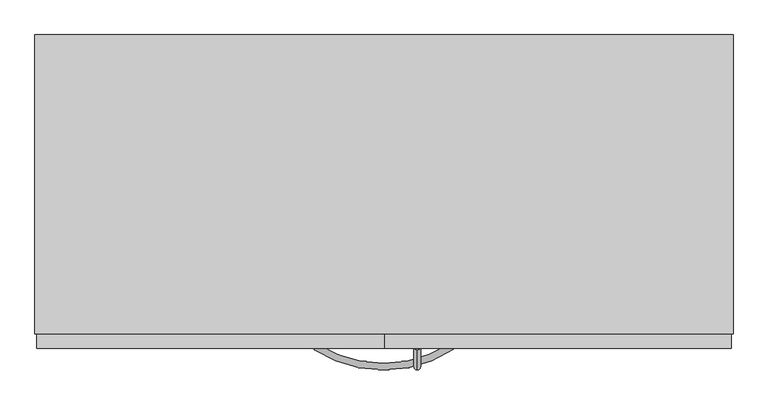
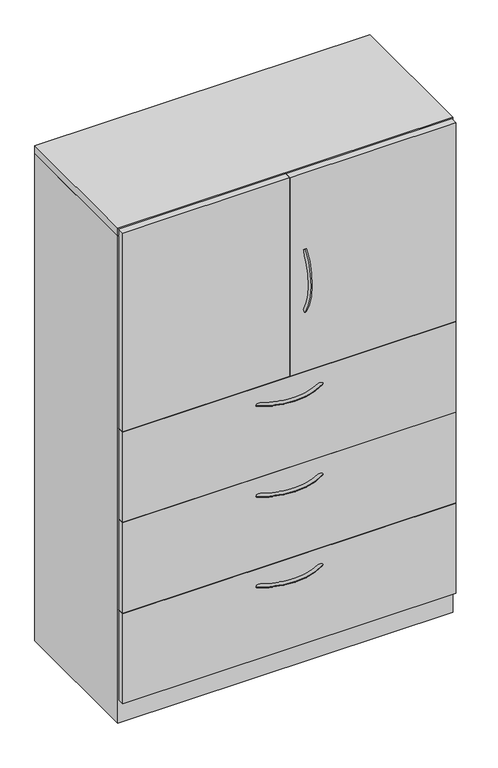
"""IFC4 building model written with IfcOpenShell, lengths in millimetres: furniture geometry, Steelcase - Universal Storage - Cabinet - Combination - Proud Steel : 65 1/2H - Hinged Doors/3 Drawers - 18 7/8D x 42W."""

from ifc_helpers import new_model, si_unit, point, frame, origin, place, context, project, spatial, polyline, circle_curve, ellipse_curve, trimmed, outline, extrude, faceted_brep, source, transform, mapped, element, save
from ifc_brep_helpers import plane_surface, revolved_surface, advanced_brep


def furniture_32368ffa(model_context):
    return source(origin(), model_context, "Body", "SolidModel", [
        extrude(outline(polyline([(1063.6225413, -479.552), (3.1725353, -479.552), (3.1725353, -457.3261219), (1063.6225413, -457.3261219), (1063.6225413, -479.552)])), frame((0.0, 0.0, 77.724), z_axis=(0.0, 0.0, 1.0), x_axis=(1.0, 0.0, 0.0)), (0.0, 0.0, 1.0), 303.276),
        extrude(outline(polyline([(1063.6225413, -479.552), (3.1725353, -479.552), (3.1725353, -457.3261219), (1063.6225413, -457.3261219), (1063.6225413, -479.552)])), frame((0.0, 0.0, 382.524), z_axis=(0.0, 0.0, 1.0), x_axis=(1.0, 0.0, 0.0)), (0.0, 0.0, 1.0), 303.276),
        extrude(outline(polyline([(1063.6225413, -479.552), (3.1725353, -479.552), (3.1725353, -457.3261219), (1063.6225413, -457.3261219), (1063.6225413, -479.552)])), frame((0.0, 0.0, 687.3240349), z_axis=(0.0, 0.0, 1.0), x_axis=(1.0, 0.0, 0.0)), (0.0, 0.0, 1.0), 303.2759651),
        extrude(outline(polyline([(533.4, -479.552), (3.1725353, -479.552), (3.1725353, -457.3261219), (533.4, -457.3261219), (533.4, -479.552)])), frame((0.0, 0.0, 992.5062596), z_axis=(0.0, 0.0, 1.0), x_axis=(1.0, 0.0, 0.0)), (0.0, 0.0, 1.0), 668.02),
        extrude(outline(polyline([(1063.6225413, -479.552), (534.9239992, -479.552), (534.9239992, -457.3261219), (1063.6225413, -457.3261219), (1063.6225413, -479.552)])), frame((0.0, 0.0, 992.5062596), z_axis=(0.0, 0.0, 1.0), x_axis=(1.0, 0.0, 0.0)), (0.0, 0.0, 1.0), 668.02),
        advanced_brep(
        [(584.1682496, -481.5705994, 1404.643666), (584.1682496, -473.0108019, 1399.1705073), (584.1682496, -481.1337636, 1192.3367456), (584.1682496, -472.5965612, 1197.8450825)],
        [
            (0, 1, circle_curve(frame((584.1682496, -477.2907007, 1401.9070866), z_axis=(0.0, 0.5386967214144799, 0.842499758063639), x_axis=(0.0, 0.842499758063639, -0.5386967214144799)), 5.08)),
            (1, 0, circle_curve(frame((584.1682496, -477.2907007, 1401.9070866), z_axis=(0.0, 0.5386967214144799, 0.842499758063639), x_axis=(0.0, 0.842499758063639, -0.5386967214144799)), 5.08)),
            (2, 3, circle_curve(frame((584.1682496, -476.8651624, 1195.0909141), z_axis=(0.0, 0.5421591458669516, -0.8402758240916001), x_axis=(0.0, 0.8402758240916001, 0.5421591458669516)), 5.08)),
            (3, 2, circle_curve(frame((584.1682496, -476.8651624, 1195.0909141), z_axis=(0.0, 0.5421591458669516, -0.8402758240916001), x_axis=(0.0, 0.8402758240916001, 0.5421591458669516)), 5.08)),
            (3, 1, circle_curve(frame((584.1682496, -316.0827352, 1298.8302589), z_axis=(-1.0, 0.0, 0.0), x_axis=(0.0, -0.8424997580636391, 0.5386967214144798)), 186.2648211)),
            (0, 2, circle_curve(frame((584.1682496, -316.0827352, 1298.8302589), z_axis=(1.0, 0.0, 0.0), x_axis=(0.0, -0.8424997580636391, 0.5386967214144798)), 196.4248211)),
        ],
        [
            plane_surface(frame((584.9619996, -476.6365286, 1401.4888072), z_axis=(0.0, 0.5386967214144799, 0.8424997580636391), x_axis=(1.0, 0.0, 0.0))),
            plane_surface(frame((584.9619996, -476.2127171, 1195.511882), z_axis=(0.0, 0.5421591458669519, -0.8402758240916), x_axis=(1.0, 0.0, 0.0))),
            revolved_surface(trimmed(ellipse_curve(frame((584.1682496, -477.2907007, 1401.9070866), z_axis=(0.0, 0.5386967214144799, 0.842499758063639), x_axis=(0.0, 0.842499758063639, -0.5386967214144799)), 5.08, 5.08), [point((584.1682496, -481.5705994, 1404.643666))], [point((584.1682496, -473.0108019, 1399.1705073))], True, "CARTESIAN"), (584.9619996, -316.0827352, 1298.8302589), (1.0, 0.0, 0.0)),
            revolved_surface(trimmed(ellipse_curve(frame((584.1682496, -477.2907007, 1401.9070866), z_axis=(0.0, 0.5386967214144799, 0.842499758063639), x_axis=(0.0, 0.842499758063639, -0.5386967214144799)), 5.08, 5.08), [point((584.1682496, -473.0108019, 1399.1705073))], [point((584.1682496, -481.5705994, 1404.643666))], True, "CARTESIAN"), (584.9619996, -316.0827352, 1298.8302589), (1.0, 0.0, 0.0)),
        ],
        [
            (0, [[1, 2]]),
            (1, [[3, 4]]),
            (2, [[5, -1, 6, -4]]),
            (3, [[-6, -2, -5, -3]]),
        ],
    ),
        advanced_brep(
        [(426.8245932, -481.5705994, 323.56425), (432.2977519, -473.0108019, 323.56425), (639.1315136, -481.1337636, 323.56425), (633.6231767, -472.5965612, 323.56425)],
        [
            (0, 1, circle_curve(frame((429.5611726, -477.2907007, 323.56425), z_axis=(-0.8424997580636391, 0.5386967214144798, 0.0), x_axis=(0.5386967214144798, 0.8424997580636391, 0.0)), 5.08)),
            (1, 0, circle_curve(frame((429.5611726, -477.2907007, 323.56425), z_axis=(-0.8424997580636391, 0.5386967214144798, 0.0), x_axis=(0.5386967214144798, 0.8424997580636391, 0.0)), 5.08)),
            (2, 3, circle_curve(frame((636.3773452, -476.8651624, 323.56425), z_axis=(0.8402758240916, 0.5421591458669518, 0.0), x_axis=(-0.5421591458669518, 0.8402758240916, 0.0)), 5.08)),
            (3, 2, circle_curve(frame((636.3773452, -476.8651624, 323.56425), z_axis=(0.8402758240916, 0.5421591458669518, 0.0), x_axis=(-0.5421591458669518, 0.8402758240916, 0.0)), 5.08)),
            (3, 1, circle_curve(frame((532.6380004, -316.0827352, 323.56425), z_axis=(0.0, 0.0, -1.0), x_axis=(-0.5386967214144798, -0.8424997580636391, 0.0)), 186.2648211)),
            (0, 2, circle_curve(frame((532.6380004, -316.0827352, 323.56425), z_axis=(0.0, 0.0, 1.0), x_axis=(-0.5386967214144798, -0.8424997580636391, 0.0)), 196.4248211)),
        ],
        [
            plane_surface(frame((429.9794521, -476.6365286, 324.358), z_axis=(-0.8424997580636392, 0.5386967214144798, 0.0), x_axis=(0.0, 0.0, 1.0))),
            plane_surface(frame((635.9563772, -476.2127171, 324.358), z_axis=(0.8402758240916, 0.5421591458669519, 0.0), x_axis=(0.0, 0.0, 1.0))),
            revolved_surface(trimmed(ellipse_curve(frame((429.5611726, -477.2907007, 323.56425), z_axis=(-0.8424997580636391, 0.5386967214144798, 0.0), x_axis=(0.5386967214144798, 0.8424997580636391, 0.0)), 5.08, 5.08), [point((426.8245932, -481.5705994, 323.56425))], [point((432.2977519, -473.0108019, 323.56425))], True, "CARTESIAN"), (532.6380004, -316.0827352, 324.358), (0.0, 0.0, 1.0)),
            revolved_surface(trimmed(ellipse_curve(frame((429.5611726, -477.2907007, 323.56425), z_axis=(-0.8424997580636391, 0.5386967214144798, 0.0), x_axis=(0.5386967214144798, 0.8424997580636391, 0.0)), 5.08, 5.08), [point((432.2977519, -473.0108019, 323.56425))], [point((426.8245932, -481.5705994, 323.56425))], True, "CARTESIAN"), (532.6380004, -316.0827352, 324.358), (0.0, 0.0, 1.0)),
        ],
        [
            (0, [[1, 2]]),
            (1, [[3, 4]]),
            (2, [[5, -1, 6, -4]]),
            (3, [[-6, -2, -5, -3]]),
        ],
    ),
        advanced_brep(
        [(426.8245932, -481.5705994, 627.85625), (432.2977519, -473.0108019, 627.85625), (639.1315136, -481.1337636, 627.85625), (633.6231767, -472.5965612, 627.85625)],
        [
            (0, 1, circle_curve(frame((429.5611726, -477.2907007, 627.85625), z_axis=(-0.8424997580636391, 0.5386967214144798, 0.0), x_axis=(0.5386967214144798, 0.8424997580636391, 0.0)), 5.08)),
            (1, 0, circle_curve(frame((429.5611726, -477.2907007, 627.85625), z_axis=(-0.8424997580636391, 0.5386967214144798, 0.0), x_axis=(0.5386967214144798, 0.8424997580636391, 0.0)), 5.08)),
            (2, 3, circle_curve(frame((636.3773452, -476.8651624, 627.85625), z_axis=(0.8402758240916, 0.5421591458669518, 0.0), x_axis=(-0.5421591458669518, 0.8402758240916, 0.0)), 5.08)),
            (3, 2, circle_curve(frame((636.3773452, -476.8651624, 627.85625), z_axis=(0.8402758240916, 0.5421591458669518, 0.0), x_axis=(-0.5421591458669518, 0.8402758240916, 0.0)), 5.08)),
            (3, 1, circle_curve(frame((532.6380004, -316.0827352, 627.85625), z_axis=(0.0, 0.0, -1.0), x_axis=(-0.5386967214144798, -0.8424997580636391, 0.0)), 186.2648211)),
            (0, 2, circle_curve(frame((532.6380004, -316.0827352, 627.85625), z_axis=(0.0, 0.0, 1.0), x_axis=(-0.5386967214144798, -0.8424997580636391, 0.0)), 196.4248211)),
        ],
        [
            plane_surface(frame((429.9794521, -476.6365286, 628.65), z_axis=(-0.8424997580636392, 0.5386967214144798, 0.0), x_axis=(0.0, 0.0, 1.0))),
            plane_surface(frame((635.9563772, -476.2127171, 628.65), z_axis=(0.8402758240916, 0.5421591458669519, 0.0), x_axis=(0.0, 0.0, 1.0))),
            revolved_surface(trimmed(ellipse_curve(frame((429.5611726, -477.2907007, 627.85625), z_axis=(-0.8424997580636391, 0.5386967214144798, 0.0), x_axis=(0.5386967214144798, 0.8424997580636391, 0.0)), 5.08, 5.08), [point((426.8245932, -481.5705994, 627.85625))], [point((432.2977519, -473.0108019, 627.85625))], True, "CARTESIAN"), (532.6380004, -316.0827352, 628.65), (0.0, 0.0, 1.0)),
            revolved_surface(trimmed(ellipse_curve(frame((429.5611726, -477.2907007, 627.85625), z_axis=(-0.8424997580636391, 0.5386967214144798, 0.0), x_axis=(0.5386967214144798, 0.8424997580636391, 0.0)), 5.08, 5.08), [point((432.2977519, -473.0108019, 627.85625))], [point((426.8245932, -481.5705994, 627.85625))], True, "CARTESIAN"), (532.6380004, -316.0827352, 628.65), (0.0, 0.0, 1.0)),
        ],
        [
            (0, [[1, 2]]),
            (1, [[3, 4]]),
            (2, [[5, -1, 6, -4]]),
            (3, [[-6, -2, -5, -3]]),
        ],
    ),
        advanced_brep(
        [(426.8245932, -481.5705994, 932.65625), (432.2977519, -473.0108019, 932.65625), (639.1315136, -481.1337636, 932.65625), (633.6231767, -472.5965612, 932.65625)],
        [
            (0, 1, circle_curve(frame((429.5611726, -477.2907007, 932.65625), z_axis=(-0.8424997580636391, 0.5386967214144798, 0.0), x_axis=(0.5386967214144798, 0.8424997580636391, 0.0)), 5.08)),
            (1, 0, circle_curve(frame((429.5611726, -477.2907007, 932.65625), z_axis=(-0.8424997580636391, 0.5386967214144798, 0.0), x_axis=(0.5386967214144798, 0.8424997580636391, 0.0)), 5.08)),
            (2, 3, circle_curve(frame((636.3773452, -476.8651624, 932.65625), z_axis=(0.8402758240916, 0.5421591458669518, 0.0), x_axis=(-0.5421591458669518, 0.8402758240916, 0.0)), 5.08)),
            (3, 2, circle_curve(frame((636.3773452, -476.8651624, 932.65625), z_axis=(0.8402758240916, 0.5421591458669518, 0.0), x_axis=(-0.5421591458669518, 0.8402758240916, 0.0)), 5.08)),
            (3, 1, circle_curve(frame((532.6380004, -316.0827352, 932.65625), z_axis=(0.0, 0.0, -1.0), x_axis=(-0.5386967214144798, -0.8424997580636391, 0.0)), 186.2648211)),
            (0, 2, circle_curve(frame((532.6380004, -316.0827352, 932.65625), z_axis=(0.0, 0.0, 1.0), x_axis=(-0.5386967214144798, -0.8424997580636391, 0.0)), 196.4248211)),
        ],
        [
            plane_surface(frame((429.9794521, -476.6365286, 933.45), z_axis=(-0.8424997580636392, 0.5386967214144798, 0.0), x_axis=(0.0, 0.0, 1.0))),
            plane_surface(frame((635.9563772, -476.2127171, 933.45), z_axis=(0.8402758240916, 0.5421591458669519, 0.0), x_axis=(0.0, 0.0, 1.0))),
            revolved_surface(trimmed(ellipse_curve(frame((429.5611726, -477.2907007, 932.65625), z_axis=(-0.8424997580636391, 0.5386967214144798, 0.0), x_axis=(0.5386967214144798, 0.8424997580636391, 0.0)), 5.08, 5.08), [point((426.8245932, -481.5705994, 932.65625))], [point((432.2977519, -473.0108019, 932.65625))], True, "CARTESIAN"), (532.6380004, -316.0827352, 933.45), (0.0, 0.0, 1.0)),
            revolved_surface(trimmed(ellipse_curve(frame((429.5611726, -477.2907007, 932.65625), z_axis=(-0.8424997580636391, 0.5386967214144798, 0.0), x_axis=(0.5386967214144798, 0.8424997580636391, 0.0)), 5.08, 5.08), [point((432.2977519, -473.0108019, 932.65625))], [point((426.8245932, -481.5705994, 932.65625))], True, "CARTESIAN"), (532.6380004, -316.0827352, 933.45), (0.0, 0.0, 1.0)),
        ],
        [
            (0, [[1, 2]]),
            (1, [[3, 4]]),
            (2, [[5, -1, 6, -4]]),
            (3, [[-6, -2, -5, -3]]),
        ],
    ),
        faceted_brep([(25.4000008, -457.3261219, 76.2), (1041.4000242, -457.3261219, 76.2), (1041.4000242, -25.4000008, 76.2), (25.4000008, -25.4000008, 76.2), (1066.8, 0.0, 0.0), (1066.8, -457.3261219, 0.0), (0.0, -457.3261219, 0.0), (0.0, 0.0, 0.0), (0.0, 0.0, 1636.776), (1066.8, 0.0, 1636.776), (0.0, -457.3261219, 1636.776), (1066.8, -457.3261219, 1636.776), (1041.4000242, -457.3261219, 1636.776), (25.4000008, -457.3261219, 1636.776), (1041.4000242, -25.4000008, 1636.776), (25.4000008, -25.4000008, 1636.776)], [[[0, 1, 2, 3]], [[4, 5, 6, 7]], [[4, 7, 8, 9]], [[8, 7, 6, 10]], [[10, 6, 5, 11, 12, 1, 0, 13]], [[11, 5, 4, 9]], [[14, 12, 11, 9, 8, 10, 13, 15]], [[12, 14, 2, 1]], [[15, 13, 0, 3]], [[14, 15, 3, 2]]]),
        extrude(outline(polyline([(1066.8, 0.0), (1066.8, -457.3261219), (0.0, -457.3261219), (0.0, 0.0), (1066.8, 0.0)])), frame((0.0, 0.0, 1638.2999516), z_axis=(0.0, 0.0, 1.0), x_axis=(1.0, 0.0, 0.0)), (0.0, 0.0, 1.0), 25.4000484),
    ])


if __name__ == "__main__":
    model = new_model("IFC4")
    model_context = context("Model", 3, world=origin())
    ifc_project = project(units=[si_unit("LENGTHUNIT", "METRE", prefix="MILLI")], contexts=[model_context])
    site = spatial("IfcSite", under=ifc_project)
    building = spatial("IfcBuilding", under=site)
    placement = place(None, origin())
    furniture_shape = furniture_32368ffa(model_context)
    element("IfcFurniture", 1, ObjectType="Steelcase - Universal Storage - Cabinet - Combination - Proud Steel : 65 1/2H - Hinged Doors/3 Drawers - 18 7/8D x 42W", at=placement, inside=building, context=model_context, shape_type="MappedRepresentation", body=[
        mapped(furniture_shape, transform((0.0, 0.0, 0.0), x_axis=(1.0, 0.0, 0.0), y_axis=(0.0, 1.0, 0.0), z_axis=(0.0, 0.0, 1.0))),
    ])
    save(model, "model.ifc")
